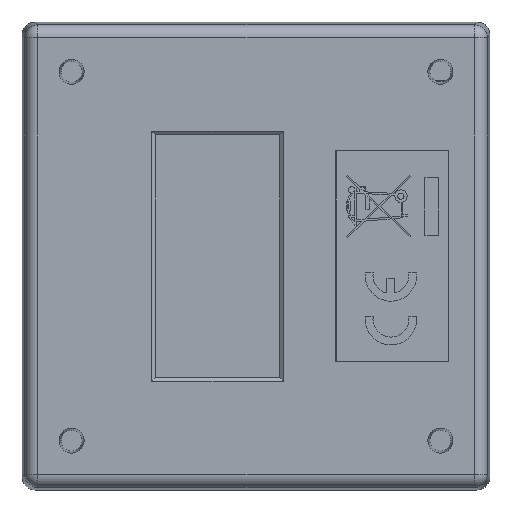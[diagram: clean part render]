
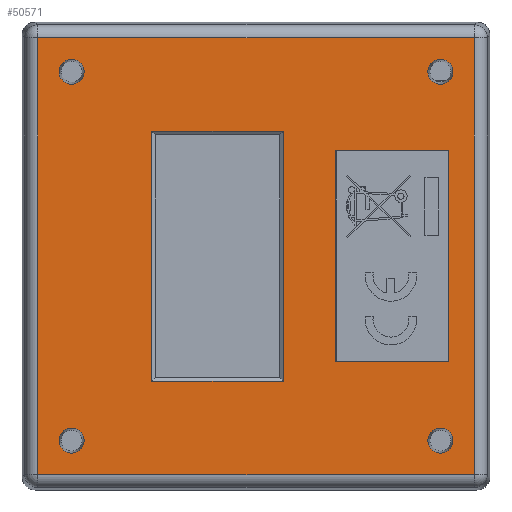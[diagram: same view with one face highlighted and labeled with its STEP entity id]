
A CAD part, front view. The second image highlights one B-rep face of the part: STEP entity #50571.
In plain terms, the highlighted planar face has unit normal (0, -1, 0) as drawn and (0, 0, -1) by its records, which use the part's own axes.
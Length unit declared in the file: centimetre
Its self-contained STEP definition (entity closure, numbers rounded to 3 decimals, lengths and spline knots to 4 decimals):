
#18841=CIRCLE('',#52439,0.1209);
#18842=CIRCLE('',#52440,0.1209);
#18843=CIRCLE('',#52441,0.1209);
#18844=CIRCLE('',#52442,0.1209);
#20439=VERTEX_POINT('',#64029);
#20440=VERTEX_POINT('',#64031);
#20442=VERTEX_POINT('',#64037);
#20444=VERTEX_POINT('',#64043);
#20539=VERTEX_POINT('',#64389);
#20540=VERTEX_POINT('',#64391);
#20542=VERTEX_POINT('',#64397);
#20544=VERTEX_POINT('',#64403);
#20665=VERTEX_POINT('',#65475);
#20666=VERTEX_POINT('',#65477);
#20667=VERTEX_POINT('',#65479);
#20668=VERTEX_POINT('',#65481);
#20669=VERTEX_POINT('',#65483);
#20670=VERTEX_POINT('',#65484);
#20671=VERTEX_POINT('',#65486);
#20672=VERTEX_POINT('',#65488);
#23826=VECTOR('',#55569,1.);
#23829=VECTOR('',#55573,1.);
#23832=VECTOR('',#55577,1.);
#23835=VECTOR('',#55581,1.);
#23965=VECTOR('',#55775,1.);
#23968=VECTOR('',#55779,1.);
#23971=VECTOR('',#55783,1.);
#23974=VECTOR('',#55787,1.);
#24135=VECTOR('',#56020,1.);
#24136=VECTOR('',#56021,1.);
#24137=VECTOR('',#56022,1.);
#24138=VECTOR('',#56023,1.);
#27713=LINE('',#64030,#23826);
#27716=LINE('',#64036,#23829);
#27719=LINE('',#64042,#23832);
#27722=LINE('',#64047,#23835);
#27852=LINE('',#64390,#23965);
#27855=LINE('',#64396,#23968);
#27858=LINE('',#64402,#23971);
#27861=LINE('',#64407,#23974);
#28022=LINE('',#65482,#24135);
#28023=LINE('',#65485,#24136);
#28024=LINE('',#65487,#24137);
#28025=LINE('',#65489,#24138);
#31681=EDGE_CURVE('',#20440,#20439,#27713,.T.);
#31684=EDGE_CURVE('',#20442,#20440,#27716,.T.);
#31687=EDGE_CURVE('',#20444,#20442,#27719,.T.);
#31690=EDGE_CURVE('',#20439,#20444,#27722,.T.);
#31830=EDGE_CURVE('',#20540,#20539,#27852,.F.);
#31833=EDGE_CURVE('',#20542,#20540,#27855,.F.);
#31836=EDGE_CURVE('',#20544,#20542,#27858,.F.);
#31839=EDGE_CURVE('',#20539,#20544,#27861,.F.);
#32020=EDGE_CURVE('',#20665,#20665,#18841,.F.);
#32021=EDGE_CURVE('',#20666,#20666,#18842,.F.);
#32022=EDGE_CURVE('',#20667,#20667,#18843,.F.);
#32023=EDGE_CURVE('',#20668,#20668,#18844,.F.);
#32024=EDGE_CURVE('',#20669,#20670,#28022,.T.);
#32025=EDGE_CURVE('',#20671,#20669,#28023,.T.);
#32026=EDGE_CURVE('',#20672,#20671,#28024,.T.);
#32027=EDGE_CURVE('',#20670,#20672,#28025,.T.);
#37872=ORIENTED_EDGE('',*,*,#31681,.T.);
#37873=ORIENTED_EDGE('',*,*,#31690,.T.);
#37874=ORIENTED_EDGE('',*,*,#31687,.T.);
#37875=ORIENTED_EDGE('',*,*,#31684,.T.);
#37876=ORIENTED_EDGE('',*,*,#32020,.T.);
#37877=ORIENTED_EDGE('',*,*,#32021,.T.);
#37878=ORIENTED_EDGE('',*,*,#32022,.T.);
#37879=ORIENTED_EDGE('',*,*,#32023,.T.);
#37880=ORIENTED_EDGE('',*,*,#32024,.F.);
#37881=ORIENTED_EDGE('',*,*,#32025,.F.);
#37882=ORIENTED_EDGE('',*,*,#32026,.F.);
#37883=ORIENTED_EDGE('',*,*,#32027,.F.);
#37884=ORIENTED_EDGE('',*,*,#31830,.T.);
#37885=ORIENTED_EDGE('',*,*,#31839,.T.);
#37886=ORIENTED_EDGE('',*,*,#31836,.T.);
#37887=ORIENTED_EDGE('',*,*,#31833,.T.);
#46484=EDGE_LOOP('',(#37872,#37873,#37874,#37875));
#46485=EDGE_LOOP('',(#37876));
#46486=EDGE_LOOP('',(#37877));
#46487=EDGE_LOOP('',(#37878));
#46488=EDGE_LOOP('',(#37879));
#46489=EDGE_LOOP('',(#37880,#37881,#37882,#37883));
#46490=EDGE_LOOP('',(#37884,#37885,#37886,#37887));
#48541=FACE_BOUND('',#46484,.T.);
#48542=FACE_BOUND('',#46485,.T.);
#48543=FACE_BOUND('',#46486,.T.);
#48544=FACE_BOUND('',#46487,.T.);
#48545=FACE_BOUND('',#46488,.T.);
#48546=FACE_BOUND('',#46489,.T.);
#48547=FACE_BOUND('',#46490,.T.);
#50571=ADVANCED_FACE('',(#48541,#48542,#48543,#48544,#48545,#48546,#48547),
#79761,.F.);
#52438=AXIS2_PLACEMENT_3D('',#65473,#56011,$);
#52439=AXIS2_PLACEMENT_3D('',#65474,#56012,#56013);
#52440=AXIS2_PLACEMENT_3D('',#65476,#56014,#56015);
#52441=AXIS2_PLACEMENT_3D('',#65478,#56016,#56017);
#52442=AXIS2_PLACEMENT_3D('',#65480,#56018,#56019);
#55569=DIRECTION('',(1.,0.,0.));
#55573=DIRECTION('',(0.,-1.,0.));
#55577=DIRECTION('',(-1.,0.,0.));
#55581=DIRECTION('',(0.,1.,0.));
#55775=DIRECTION('',(-1.,0.,0.));
#55779=DIRECTION('',(0.,1.,0.));
#55783=DIRECTION('',(1.,0.,0.));
#55787=DIRECTION('',(0.,-1.,0.));
#56011=DIRECTION('',(0.,0.,1.));
#56012=DIRECTION('',(0.,0.,-1.));
#56013=DIRECTION('',(-0.121,0.,0.));
#56014=DIRECTION('',(0.,0.,-1.));
#56015=DIRECTION('',(-0.121,0.,0.));
#56016=DIRECTION('',(0.,0.,-1.));
#56017=DIRECTION('',(-0.121,0.,0.));
#56018=DIRECTION('',(0.,0.,-1.));
#56019=DIRECTION('',(-0.121,0.,0.));
#56020=DIRECTION('',(-1.,0.,0.));
#56021=DIRECTION('',(0.,1.,0.));
#56022=DIRECTION('',(1.,0.,0.));
#56023=DIRECTION('',(0.,-1.,0.));
#64029=CARTESIAN_POINT('',(1.2065,-0.2639,-0.0032));
#64030=CARTESIAN_POINT('',(0.6033,-0.2639,-0.0032));
#64031=CARTESIAN_POINT('',(-1.2065,-0.2639,-0.0032));
#64036=CARTESIAN_POINT('',(-1.2065,-0.1319,-0.0032));
#64037=CARTESIAN_POINT('',(-1.2065,1.0061,-0.0032));
#64042=CARTESIAN_POINT('',(-0.6032,1.0061,-0.0032));
#64043=CARTESIAN_POINT('',(1.2065,1.0061,-0.0032));
#64047=CARTESIAN_POINT('',(1.2065,0.5031,-0.0032));
#64389=CARTESIAN_POINT('',(1.0178,-1.8531,-0.0032));
#64390=CARTESIAN_POINT('',(0.,-1.8531,-0.0032));
#64391=CARTESIAN_POINT('',(-1.0178,-1.8531,-0.0032));
#64396=CARTESIAN_POINT('',(-1.0178,-0.3279,-0.0032));
#64397=CARTESIAN_POINT('',(-1.0178,-0.7701,-0.0032));
#64402=CARTESIAN_POINT('',(0.,-0.7701,-0.0032));
#64403=CARTESIAN_POINT('',(1.0178,-0.7701,-0.0032));
#64407=CARTESIAN_POINT('',(1.0178,-0.3279,-0.0032));
#65473=CARTESIAN_POINT('',(0.,0.,
-0.0032));
#65474=CARTESIAN_POINT('',(1.778,1.778,-0.0032));
#65475=CARTESIAN_POINT('',(1.8989,1.778,-0.0032));
#65476=CARTESIAN_POINT('',(1.778,-1.778,-0.0032));
#65477=CARTESIAN_POINT('',(1.8989,-1.778,-0.0032));
#65478=CARTESIAN_POINT('',(-1.778,-1.778,-0.0032));
#65479=CARTESIAN_POINT('',(-1.6571,-1.778,-0.0032));
#65480=CARTESIAN_POINT('',(-1.778,1.778,-0.0032));
#65481=CARTESIAN_POINT('',(-1.6571,1.778,-0.0032));
#65482=CARTESIAN_POINT('',(0.,2.1054,-0.0032));
#65483=CARTESIAN_POINT('',(2.1054,2.1054,-0.0032));
#65484=CARTESIAN_POINT('',(-2.1054,2.1054,-0.0032));
#65485=CARTESIAN_POINT('',(2.1054,0.,-0.0032));
#65486=CARTESIAN_POINT('',(2.1054,-2.1054,-0.0032));
#65487=CARTESIAN_POINT('',(0.,-2.1054,-0.0032));
#65488=CARTESIAN_POINT('',(-2.1054,-2.1054,-0.0032));
#65489=CARTESIAN_POINT('',(-2.1054,0.,-0.0032));
#79761=PLANE('',#52438);
